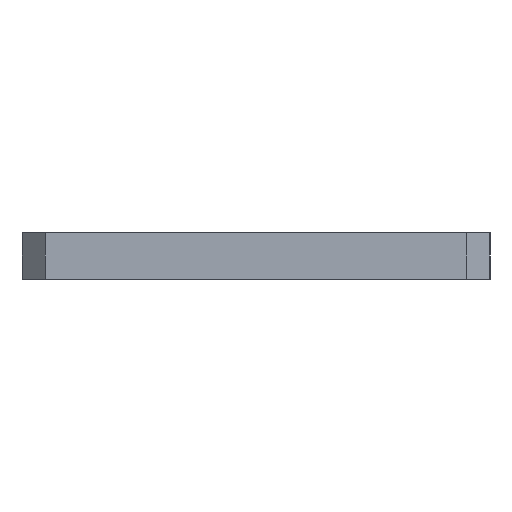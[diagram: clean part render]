
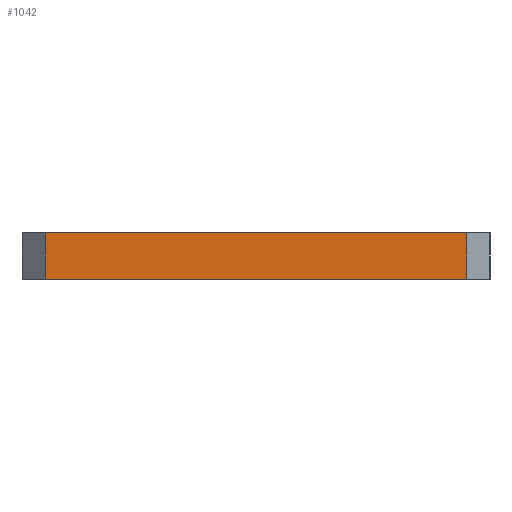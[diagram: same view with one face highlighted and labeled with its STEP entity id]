
A CAD part, left-side view. The second image highlights one B-rep face of the part: STEP entity #1042.
In plain terms, the highlighted planar face has unit normal (-1, 0, 0).
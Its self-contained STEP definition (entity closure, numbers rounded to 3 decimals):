
#1029=AXIS2_PLACEMENT_3D('Plane Axis2P3D',#1026,#1027,#1028) ;
#108=CARTESIAN_POINT('Vertex',(-150.5,-39.,-10.)) ;
#111=CARTESIAN_POINT('Line Origine',(-150.5,6.,-10.)) ;
#115=CARTESIAN_POINT('Vertex',(-150.5,51.,-10.)) ;
#376=CARTESIAN_POINT('Vertex',(-150.5,51.,0.)) ;
#379=CARTESIAN_POINT('Line Origine',(-150.5,6.,0.)) ;
#383=CARTESIAN_POINT('Vertex',(-150.5,-39.,0.)) ;
#1014=CARTESIAN_POINT('Line Origine',(-150.5,-39.,-5.)) ;
#1026=CARTESIAN_POINT('Axis2P3D Location',(-150.5,-44.,0.)) ;
#1031=CARTESIAN_POINT('Line Origine',(-150.5,51.,-5.)) ;
#112=DIRECTION('Vector Direction',(0.,1.,0.)) ;
#380=DIRECTION('Vector Direction',(0.,1.,0.)) ;
#1015=DIRECTION('Vector Direction',(0.,0.,-1.)) ;
#1027=DIRECTION('Axis2P3D Direction',(-1.,0.,0.)) ;
#1028=DIRECTION('Axis2P3D XDirection',(0.,1.,0.)) ;
#1032=DIRECTION('Vector Direction',(0.,0.,1.)) ;
#113=VECTOR('Line Direction',#112,1.) ;
#381=VECTOR('Line Direction',#380,1.) ;
#1016=VECTOR('Line Direction',#1015,1.) ;
#1033=VECTOR('Line Direction',#1032,1.) ;
#1037=ORIENTED_EDGE('',*,*,#117,.T.) ;
#1038=ORIENTED_EDGE('',*,*,#1018,.F.) ;
#1039=ORIENTED_EDGE('',*,*,#385,.F.) ;
#1040=ORIENTED_EDGE('',*,*,#1035,.T.) ;
#1042=ADVANCED_FACE('PartBody',(#1041),#1030,.T.) ;
#117=EDGE_CURVE('',#116,#109,#114,.F.) ;
#385=EDGE_CURVE('',#377,#384,#382,.F.) ;
#1018=EDGE_CURVE('',#384,#109,#1017,.T.) ;
#1035=EDGE_CURVE('',#377,#116,#1034,.F.) ;
#1036=EDGE_LOOP('',(#1037,#1038,#1039,#1040)) ;
#1041=FACE_OUTER_BOUND('',#1036,.T.) ;
#114=LINE('Line',#111,#113) ;
#382=LINE('Line',#379,#381) ;
#1017=LINE('Line',#1014,#1016) ;
#1034=LINE('Line',#1031,#1033) ;
#1030=PLANE('',#1029) ;
#109=VERTEX_POINT('',#108) ;
#116=VERTEX_POINT('',#115) ;
#377=VERTEX_POINT('',#376) ;
#384=VERTEX_POINT('',#383) ;
